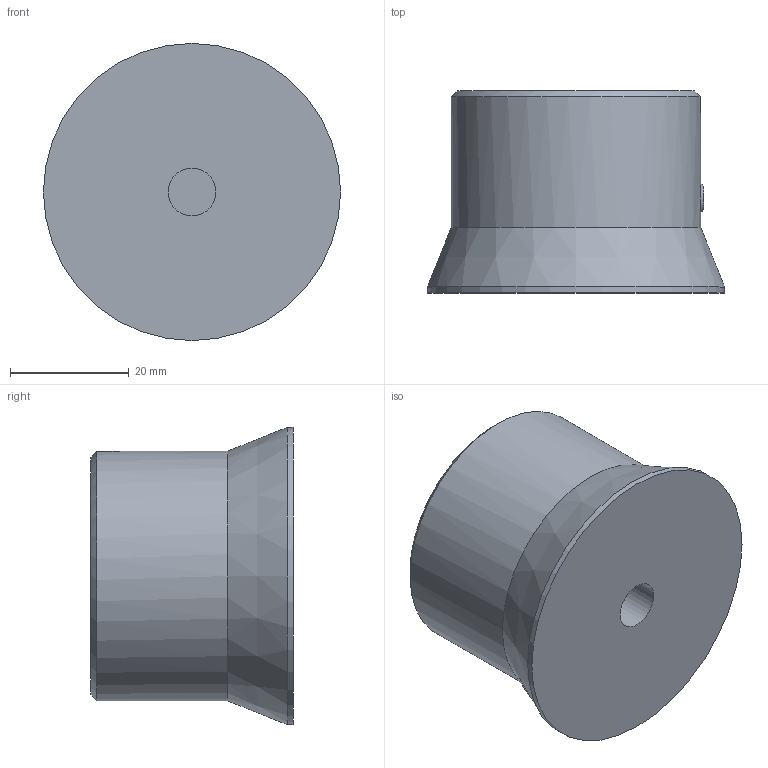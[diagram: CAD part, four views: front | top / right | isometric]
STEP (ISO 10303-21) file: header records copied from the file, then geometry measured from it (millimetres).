
FILE_DESCRIPTION( ( 'STEP AP203' ), '1' );
FILE_NAME( 'C:/Temp/Ganter_Step_05_03_2020/data/1_4/gn_726_2/gn_726_2_s/gn_726_2_s_1/Control knob GN 726.2-42-B8-S-1.stp', '2020-03-05T10:50:06', ( 'License CC BY-ND 4.0' ), ( 'CADENAS' ), ' ', 'PARTsolutions', ' ' );
FILE_SCHEMA( ( 'CONFIG_CONTROL_DESIGN' ) );
Length unit declared in the file: millimetre
Products named in the file (1): _Control knob GN 726.2-42-B8-S-1
Bounding box: 50 x 34 x 50 mm (x, y, z)
Volume: 48441.3 mm3; surface area: 8857.2 mm2
Topology: 1 solids, 1 shells, 128 faces, 364 edges, 241 vertices
Faces by surface type: cylinder 85, plane 39, cone 4
Full cylindrical faces by diameter (mm): 8 x1, 42 x1, 50 x1
Entity records: 4546 total; most frequent: CARTESIAN_POINT 1307, ORIENTED_EDGE 710, DIRECTION 616, EDGE_CURVE 355, VERTEX_POINT 239, AXIS2_PLACEMENT_3D 232, LINE 152, VECTOR 152
